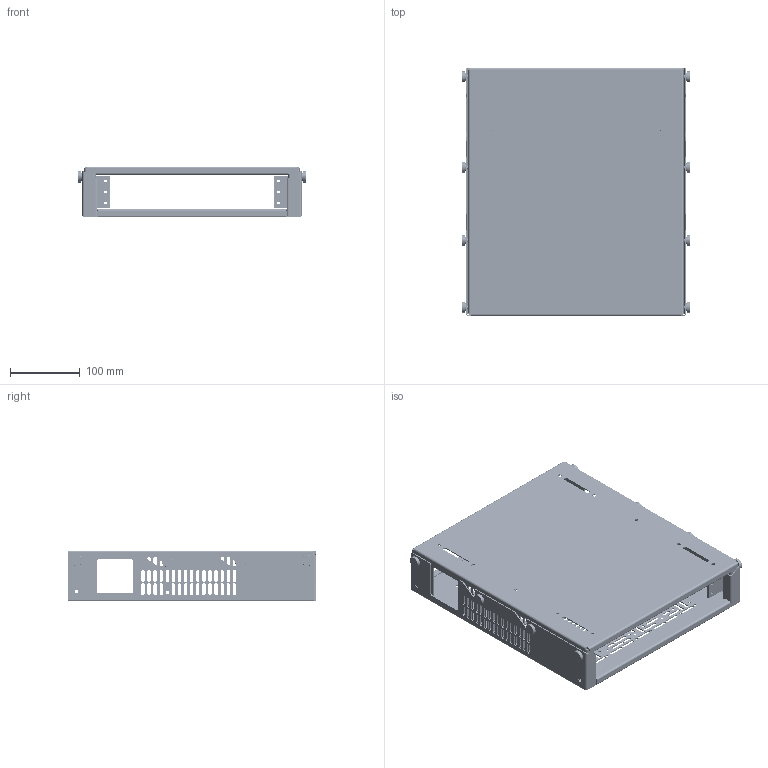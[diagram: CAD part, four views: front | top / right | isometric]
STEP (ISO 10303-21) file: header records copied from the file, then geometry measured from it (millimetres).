
FILE_DESCRIPTION((''),'2;1');
FILE_NAME('AUTBHR1_1U_ASM','2015-12-17T',('rrenderos'),('Middle Atlantic Products'),'PRO/ENGINEER BY PARAMETRIC TECHNOLOGY CORPORATION, 2014310','PRO/ENGINEER BY PARAMETRIC TECHNOLOGY CORPORATION, 2014310','');
FILE_SCHEMA(('CONFIG_CONTROL_DESIGN'));
Length unit declared in the file: inch
Products named in the file (11): BUTBHRT1; 80-032; PUTBHRT1_ASM; 500-00432; AUTBHRT1_ASM; PUTBHRB1; CVRR1; 500-00120; 500-00511; 500-00490; AUTBHR1_1U_ASM
Assembly tree (38 placements, depth 4):
  AUTBHR1_1U_ASM
    AUTBHRT1_ASM
      PUTBHRT1_ASM
        BUTBHRT1
        80-032  x12
      500-00432  x4
    PUTBHRB1
    CVRR1  x2
    500-00120  x4
    500-00511  x4
    500-00490  x8
Bounding box: 326.9 x 355.6 x 73.03 mm (x, y, z)
Volume: 469426.7 mm3; surface area: 640966.2 mm2
Topology: 36 solids, 36 shells, 3050 faces, 8348 edges, 5438 vertices
Faces by surface type: cylinder 1550, plane 1226, cone 166, torus 80, bspline 28
Entity records: 89022 total; most frequent: CARTESIAN_POINT 15852, DIRECTION 15490, ORIENTED_EDGE 14816, EDGE_CURVE 7408, AXIS2_PLACEMENT_3D 5496, VERTEX_POINT 4850, VECTOR 4498, LINE 4498
